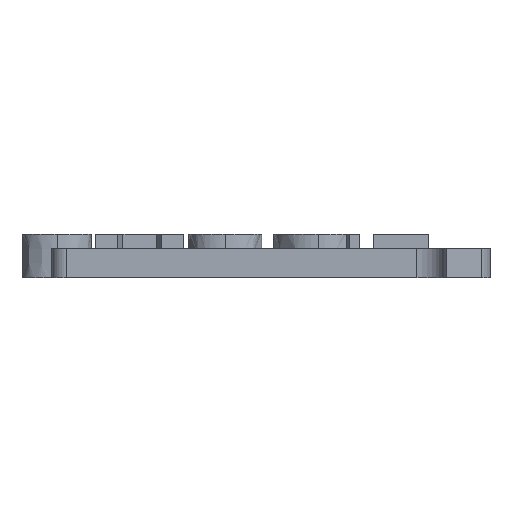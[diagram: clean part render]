
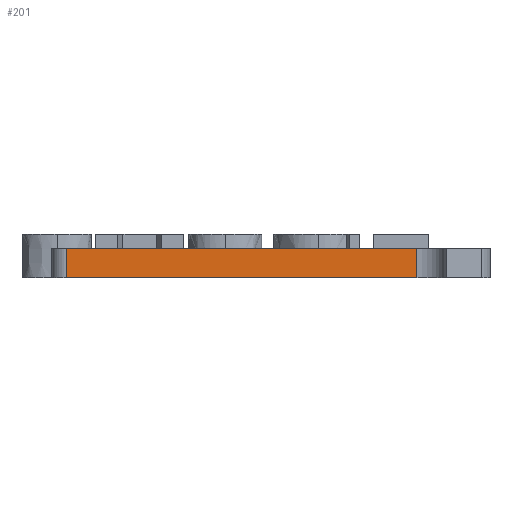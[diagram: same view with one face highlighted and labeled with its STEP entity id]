
A CAD part, front view. The second image highlights one B-rep face of the part: STEP entity #201.
In plain terms, the highlighted planar face has unit normal (0, -1, 0).
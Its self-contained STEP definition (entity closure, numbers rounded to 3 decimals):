
#201=ADVANCED_FACE('',(#432),#433,.T.);
#432=FACE_OUTER_BOUND('',#698,.T.);
#433=PLANE('',#699);
#698=EDGE_LOOP('',(#1313,#1314,#1315,#1316));
#699=AXIS2_PLACEMENT_3D('',#1317,#1318,#1319);
#1313=ORIENTED_EDGE('',*,*,#1963,.T.);
#1314=ORIENTED_EDGE('',*,*,#2010,.T.);
#1315=ORIENTED_EDGE('',*,*,#1993,.F.);
#1316=ORIENTED_EDGE('',*,*,#2011,.T.);
#1317=CARTESIAN_POINT('',(-16.5,-3.0,0.0));
#1318=DIRECTION('',(0.,-1.0,0.0));
#1319=DIRECTION('',(1.0,0.,0.0));
#1963=EDGE_CURVE('',#2411,#2409,#2412,.T.);
#1993=EDGE_CURVE('',#2463,#2465,#2466,.T.);
#2010=EDGE_CURVE('',#2409,#2465,#2493,.T.);
#2011=EDGE_CURVE('',#2463,#2411,#2494,.F.);
#2409=VERTEX_POINT('',#3123);
#2411=VERTEX_POINT('',#3125);
#2412=LINE('',#3126,#3127);
#2463=VERTEX_POINT('',#3245);
#2465=VERTEX_POINT('',#3247);
#2466=LINE('',#3248,#3249);
#2493=LINE('',#3291,#3292);
#2494=LINE('',#3293,#3294);
#3123=CARTESIAN_POINT('',(-5.0,-3.0,0.0));
#3125=CARTESIAN_POINT('',(-29.0,-3.0,0.0));
#3126=CARTESIAN_POINT('',(-16.5,-3.0,0.0));
#3127=VECTOR('',#3679,1.0);
#3245=CARTESIAN_POINT('',(-29.0,-3.0,2.0));
#3247=CARTESIAN_POINT('',(-5.0,-3.0,2.0));
#3248=CARTESIAN_POINT('',(-16.5,-3.0,2.0));
#3249=VECTOR('',#3697,1.0);
#3291=CARTESIAN_POINT('',(-5.0,-3.0,2.0));
#3292=VECTOR('',#3716,1.0);
#3293=CARTESIAN_POINT('',(-29.0,-3.0,0.0));
#3294=VECTOR('',#3717,1.0);
#3679=DIRECTION('',(1.0,0.,0.0));
#3697=DIRECTION('',(1.0,0.,0.0));
#3716=DIRECTION('',(0.0,0.0,1.0));
#3717=DIRECTION('',(0.0,0.0,1.0));
